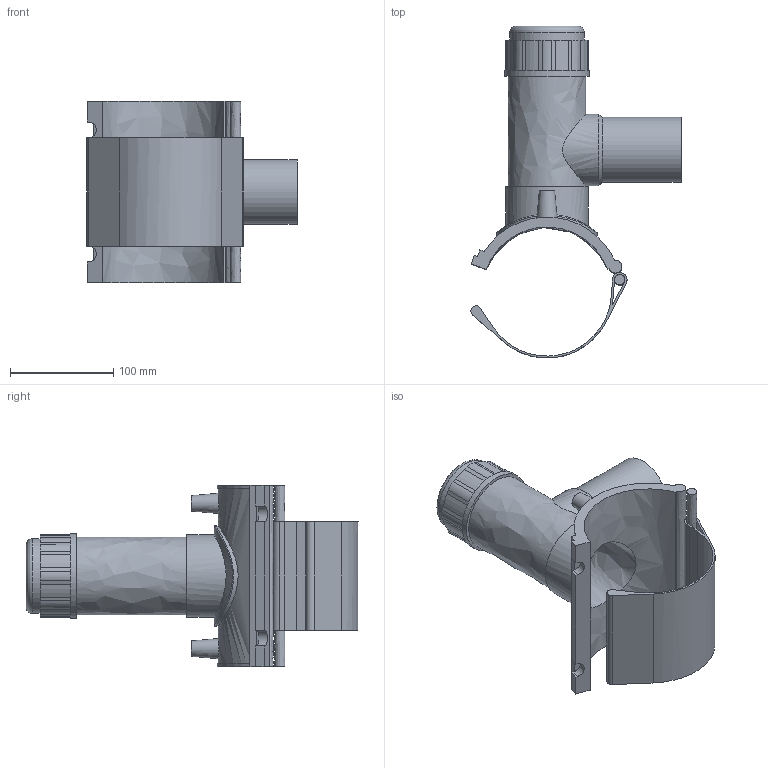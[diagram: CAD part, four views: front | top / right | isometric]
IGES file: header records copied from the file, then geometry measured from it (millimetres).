
Global section: file name: 491304125063; native system: Autodesk Inventor 2019; preprocessor: unknown; author: KIM; date: 20230323.112833; units: millimetre
Bounding box: 203.75 x 321.82 x 176 mm (x, y, z)
Volume: 811534.8 mm3; surface area: 241774.2 mm2
Topology: 2 solids, 2 shells, 108 faces, 282 edges, 193 vertices
Faces by surface type: bspline 108
